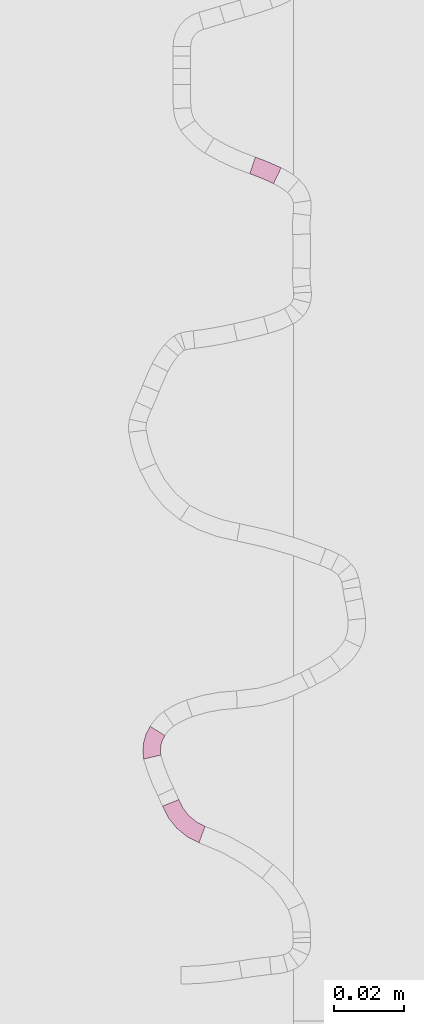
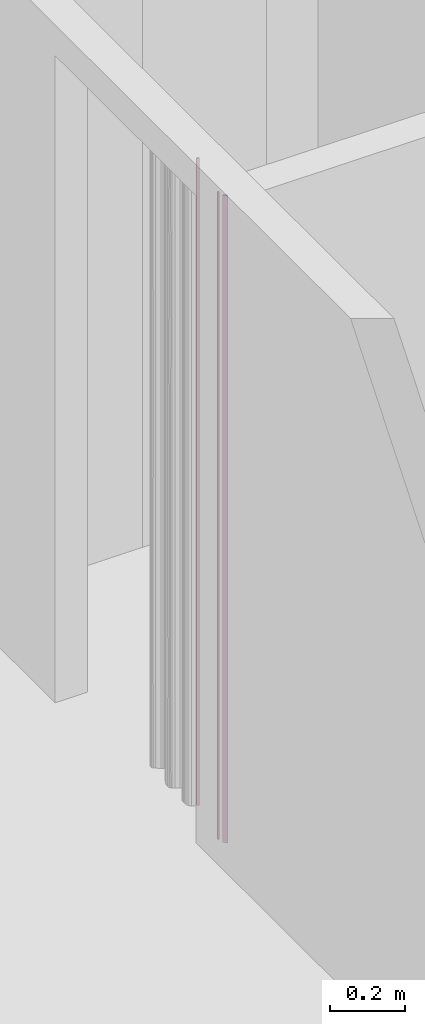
# One storey, part 254 of 418: 3 furnishings.
"""IFC2X3 building model written with IfcOpenShell, lengths in millimetres."""

from ifc_helpers import new_model, entity, si_unit, converted_unit, derived_unit, money_unit, point, direction, frame, frame_2d, origin_with_axes, place, context, subcontext, project, spatial, polyline, circle_curve, parameter, trimmed, segment, composite_curve, outline, extrude, material, type_object, element, save


model = new_model("IFC2X3")

# Units and contexts
model_context = context("Model", 3, precision=0.01, world=origin_with_axes(), true_north=direction((0.0, 1.0)))
body_context = subcontext(model_context, "Body", "Model", "MODEL_VIEW")
ifc_project = project(units=[si_unit("LENGTHUNIT", "METRE", prefix="MILLI"), si_unit("AREAUNIT", "SQUARE_METRE"), si_unit("VOLUMEUNIT", "CUBIC_METRE"), converted_unit("PLANEANGLEUNIT", "DEGREE", entity("IfcPlaneAngleMeasure", 0.0174532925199), si_unit("PLANEANGLEUNIT", "RADIAN"), dimensions=[0, 0, 0, 0, 0, 0, 0]), si_unit("SOLIDANGLEUNIT", "STERADIAN"), money_unit("EUR"), converted_unit("TIMEUNIT", "Year", entity("IfcTimeMeasure", 31556926.0), si_unit("TIMEUNIT", "SECOND"), dimensions=[0, 0, 1, 0, 0, 0, 0]), si_unit("MASSUNIT", "GRAM", prefix="KILO"), si_unit("THERMODYNAMICTEMPERATUREUNIT", "DEGREE_CELSIUS"), si_unit("LUMINOUSINTENSITYUNIT", "LUMEN"), si_unit("ENERGYUNIT", "JOULE", prefix="MEGA"), derived_unit("THERMALCONDUCTANCEUNIT", [(si_unit("POWERUNIT", "WATT"), 1), (si_unit("LENGTHUNIT", "METRE"), -1), (si_unit("THERMODYNAMICTEMPERATUREUNIT", "KELVIN"), -1)]), derived_unit("SPECIFICHEATCAPACITYUNIT", [(si_unit("ENERGYUNIT", "JOULE"), 1), (si_unit("MASSUNIT", "GRAM", prefix="KILO"), -1), (si_unit("THERMODYNAMICTEMPERATUREUNIT", "KELVIN"), -1)]), derived_unit("MASSDENSITYUNIT", [(si_unit("MASSUNIT", "GRAM", prefix="KILO"), 1), (si_unit("VOLUMEUNIT", "CUBIC_METRE"), -1)])], contexts=[model_context])

# Site, building, storey
site_placement = place(None, origin_with_axes())
site = spatial("IfcSite", under=ifc_project, at=site_placement, Name="Paldiski mnt 245/1, Tallinn, Harjumaa", CompositionType="COMPLEX")
building_placement = place(site_placement, origin_with_axes())
building = spatial("IfcBuilding", under=site, at=building_placement, Name="RKAS Hoone üldnimetus (kasutust iseloomustav) -> IFC Project Manager -> SOLIBRI", CompositionType="ELEMENT")
storey_placement = place(building_placement, origin_with_axes())
storey = spatial("IfcBuildingStorey", under=building, at=storey_placement, Name="Esimene korrus", CompositionType="ELEMENT", Elevation=0.0)

# Furnishings
ifc_material = material(Name="KON-00_GENEERILINE - KONSTRUKTSIOON")
furniture_type = type_object("IfcFurnitureType", Name="KON-00_GENEERILINE - KONSTRUKTSIOON 5", AssemblyPlace="NOTDEFINED")
furnishing_1_placement = place(storey_placement, frame((-45028.026413, -1221.2130314, 0.0), z_axis=(0.0, 0.0, 1.0), x_axis=(-0.90000281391, 0.435884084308, 0.0)))
element("IfcFurnishingElement", 1, at=furnishing_1_placement, inside=storey, type_object=furniture_type, material=ifc_material, Name="SS-17", context=body_context, shape_type="SweptSolid", body=[
    extrude(outline(composite_curve([segment(trimmed(circle_curve(frame_2d((0.0, 64.6944952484), x_axis=(0.000587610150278, -0.999999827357)), 69.6944952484), [point((0.0409531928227, -4.99998796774)), parameter(0.0)], [point((7.96467058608, -4.54340398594)), parameter(6.52841720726)], True, "CARTESIAN"), True, "CONTINUOUS"), segment(polyline([(7.96467058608, -4.54340398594), (7.35857869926, 0.419857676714)]), True, "CONTINUOUS"), segment(trimmed(circle_curve(frame_2d((0.0, 64.6944952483), x_axis=(0.0, -1.0)), 64.6944952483), [point((7.35857869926, 0.419857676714)), parameter(6.53115770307)], [point((2.0605739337e-10, 0.0)), parameter(0.0)], False, "CARTESIAN"), True, "CONTINUOUS"), segment(polyline([(2.0605739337e-10, 0.0), (0.0409531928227, -4.99998796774)]), True, "CONTINUOUS")], self_intersect=False)), origin_with_axes(), (0.0, 0.0, 1.0), 2100.0),
])
furnishing_2_placement = place(storey_placement, frame((-45063.2327435, -1375.91074767, 0.0), z_axis=(0.0, 0.0, 1.0), x_axis=(-0.544982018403, -0.838447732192, 0.0)))
element("IfcFurnishingElement", 2, at=furnishing_2_placement, inside=storey, type_object=furniture_type, material=ifc_material, Name="SS-57", context=body_context, shape_type="SweptSolid", body=[
    extrude(outline(composite_curve([segment(trimmed(circle_curve(frame_2d((0.0, 12.7697665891), x_axis=(0.0, -1.0)), 12.7697665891), [point((0.0, 0.0)), parameter(0.0)], [point((8.84726860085, 3.56146723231)), parameter(43.854492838)], True, "CARTESIAN"), True, "CONTINUOUS"), segment(polyline([(8.84726860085, 3.56146723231), (5.24593105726, 7.03831998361)]), True, "CONTINUOUS"), segment(trimmed(circle_curve(frame_2d((0.0, 12.7697665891), x_axis=(-0.0115741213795, -0.999933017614)), 7.76976658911), [point((5.24593105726, 7.03831998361)), parameter(43.1306936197)], [point((-0.0899282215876, 5.00052043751)), parameter(0.0)], False, "CARTESIAN"), True, "CONTINUOUS"), segment(polyline([(-0.0899282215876, 5.00052043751), (0.0, 0.0)]), True, "CONTINUOUS")], self_intersect=False)), origin_with_axes(), (0.0, 0.0, 1.0), 2100.0),
])
furnishing_3_placement = place(storey_placement, frame((-45059.712565, -1398.6962002, 0.0), z_axis=(0.0, 0.0, 1.0), x_axis=(0.357424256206, -0.933942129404, 0.0)))
element("IfcFurnishingElement", 3, at=furnishing_3_placement, inside=storey, type_object=furniture_type, material=ifc_material, Name="SS-60", context=body_context, shape_type="SweptSolid", body=[
    extrude(outline(composite_curve([segment(trimmed(circle_curve(frame_2d((0.0, 18.1810209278), x_axis=(0.0, -1.0)), 18.1810209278), [point((0.0, 0.0)), parameter(0.0)], [point((13.4969111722, 5.99976849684)), parameter(47.9330693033)], True, "CARTESIAN"), True, "CONTINUOUS"), segment(polyline([(13.4969111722, 5.99976849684), (9.72961101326, 9.28866565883)]), True, "CONTINUOUS"), segment(trimmed(circle_curve(frame_2d((0.0, 18.1810209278), x_axis=(-0.00817431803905, -0.999966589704)), 13.1810209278), [point((9.72961101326, 9.28866565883)), parameter(48.0426810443)], [point((-0.107745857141, 5.00044038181)), parameter(0.0)], False, "CARTESIAN"), True, "CONTINUOUS"), segment(polyline([(-0.107745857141, 5.00044038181), (0.0, 0.0)]), True, "CONTINUOUS")], self_intersect=False)), origin_with_axes(), (0.0, 0.0, 1.0), 2100.0),
])

save(model, "model.ifc")
